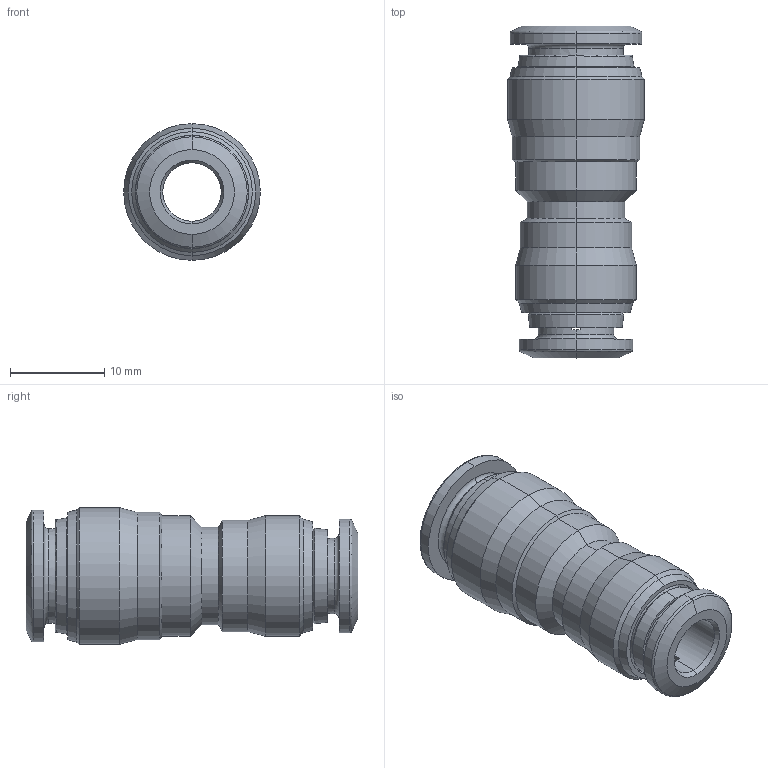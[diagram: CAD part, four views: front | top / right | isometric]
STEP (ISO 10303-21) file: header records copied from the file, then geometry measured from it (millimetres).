
FILE_DESCRIPTION (( 'STEP AP214' ), '1' );
FILE_NAME ('40040V0004A.STEP', '2016-05-16T13:13:08', ( '' ), ( '' ), 'SwSTEP 2.0', 'SolidWorks 2016', '' );
FILE_SCHEMA (( 'AUTOMOTIVE_DESIGN' ));
Length unit declared in the file: millimetre
Products named in the file (1): 40040V0004A
Bounding box: 14.5 x 35.2 x 14.5 mm (x, y, z)
Surface area: 2544 mm2 (no closed solid volume)
Topology: 0 solids, 5 shells, 94 faces, 254 edges, 162 vertices
Faces by surface type: cone 34, cylinder 32, plane 18, torus 10
Entity records: 4007 total; most frequent: DIRECTION 568, CARTESIAN_POINT 535, ORIENTED_EDGE 432, EDGE_CURVE 254, AXIS2_PLACEMENT_3D 227, VERTEX_POINT 162, CIRCLE 132, VECTOR 114
